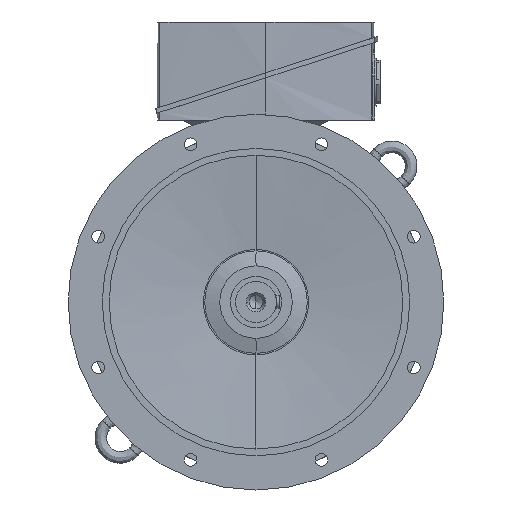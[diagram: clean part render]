
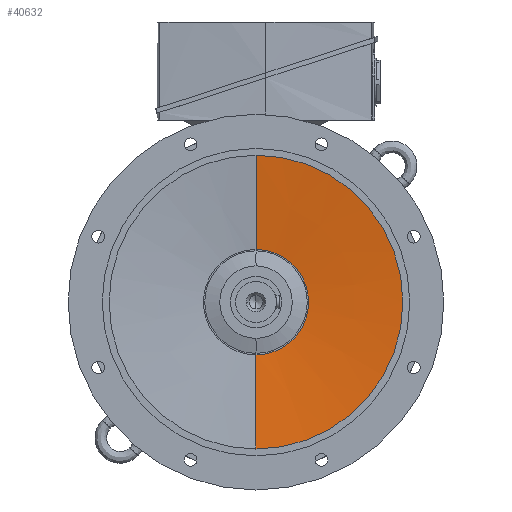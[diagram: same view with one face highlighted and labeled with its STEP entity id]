
A CAD part, left-side view. The second image highlights one B-rep face of the part: STEP entity #40632.
In plain terms, the highlighted conical face has half-angle 83.797 degrees and reference radius 215 mm.
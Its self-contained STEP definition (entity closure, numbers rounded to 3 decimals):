
#30 = DIRECTION ( 'NONE',  ( 0., 0., 1. ) ) ;
#1863 = CARTESIAN_POINT ( 'NONE',  ( -95., 0., -215. ) ) ;
#2833 = CARTESIAN_POINT ( 'NONE',  ( -80., 0., 77. ) ) ;
#3275 = VERTEX_POINT ( 'NONE', #1863 ) ;
#5252 = EDGE_CURVE ( 'NONE', #18001, #11749, #39869, .T. ) ;
#5440 = CARTESIAN_POINT ( 'NONE',  ( -95., 0., 215. ) ) ;
#5986 = ORIENTED_EDGE ( 'NONE', *, *, #34267, .T. ) ;
#6105 = CONICAL_SURFACE ( 'NONE', #24377, 215., 1.463 ) ;
#7277 = VERTEX_POINT ( 'NONE', #5440 ) ;
#7873 = CARTESIAN_POINT ( 'NONE',  ( -80., 0., -77. ) ) ;
#9445 = ORIENTED_EDGE ( 'NONE', *, *, #33087, .T. ) ;
#10414 = CARTESIAN_POINT ( 'NONE',  ( -95., 0., -215. ) ) ;
#10779 = VECTOR ( 'NONE', #25833, 1000. ) ;
#11197 = DIRECTION ( 'NONE',  ( 0., 0., 1. ) ) ;
#11305 = DIRECTION ( 'NONE',  ( -1., 0., 0. ) ) ;
#11340 = CARTESIAN_POINT ( 'NONE',  ( -80., 0., 0. ) ) ;
#11749 = VERTEX_POINT ( 'NONE', #2833 ) ;
#12063 = CARTESIAN_POINT ( 'NONE',  ( -95., 0., 0. ) ) ;
#13847 = LINE ( 'NONE', #38156, #37899 ) ;
#15221 = DIRECTION ( 'NONE',  ( 0., 0., 1. ) ) ;
#15295 = CIRCLE ( 'NONE', #20792, 215. ) ;
#15424 = FACE_OUTER_BOUND ( 'NONE', #33995, .T. ) ;
#18001 = VERTEX_POINT ( 'NONE', #7873 ) ;
#18879 = CARTESIAN_POINT ( 'NONE',  ( -95., 0., 0. ) ) ;
#20792 = AXIS2_PLACEMENT_3D ( 'NONE', #12063, #34077, #15221 ) ;
#24377 = AXIS2_PLACEMENT_3D ( 'NONE', #18879, #28256, #30 ) ;
#24549 = ORIENTED_EDGE ( 'NONE', *, *, #32324, .F. ) ;
#25833 = DIRECTION ( 'NONE',  ( -0.108, 0., -0.994 ) ) ;
#26486 = AXIS2_PLACEMENT_3D ( 'NONE', #11340, #11305, #11197 ) ;
#27585 = LINE ( 'NONE', #10414, #10779 ) ;
#28256 = DIRECTION ( 'NONE',  ( -1., 0., 0. ) ) ;
#28898 = DIRECTION ( 'NONE',  ( -0.108, 0., 0.994 ) ) ;
#32324 = EDGE_CURVE ( 'NONE', #11749, #7277, #13847, .T. ) ;
#33087 = EDGE_CURVE ( 'NONE', #3275, #7277, #15295, .T. ) ;
#33995 = EDGE_LOOP ( 'NONE', ( #37526, #5986, #9445, #24549 ) ) ;
#34077 = DIRECTION ( 'NONE',  ( -1., 0., 0. ) ) ;
#34267 = EDGE_CURVE ( 'NONE', #18001, #3275, #27585, .T. ) ;
#37526 = ORIENTED_EDGE ( 'NONE', *, *, #5252, .F. ) ;
#37899 = VECTOR ( 'NONE', #28898, 1000. ) ;
#38156 = CARTESIAN_POINT ( 'NONE',  ( -95., 0., 215. ) ) ;
#39869 = CIRCLE ( 'NONE', #26486, 77. ) ;
#40632 = ADVANCED_FACE ( 'NONE', ( #15424 ), #6105, .F. ) ;
